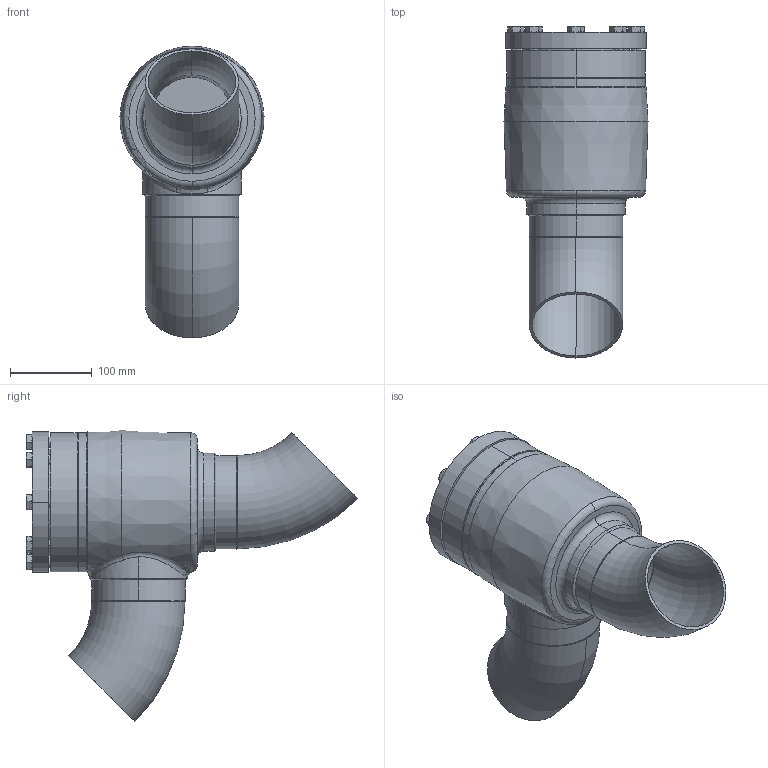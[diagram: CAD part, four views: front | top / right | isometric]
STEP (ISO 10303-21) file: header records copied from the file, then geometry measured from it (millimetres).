
FILE_DESCRIPTION (( 'STEP AP214' ), '1' );
FILE_NAME ('SS52300D19-DN100_R1_PS40.STEP', '2007-01-08T09:47:34', ( 'Herr Grams' ), ( 'AWP GmbH' ), 'SwSTEP 2.0', 'SolidWorks 2002296', '' );
FILE_SCHEMA (( 'AUTOMOTIVE_DESIGN' ));
Length unit declared in the file: millimetre
Products named in the file (12): SS52300D19-DN100_R1_PS40; Gehäuse-kpl16300-DN100_R1_Standard; Gehäuse-kpl16400-DN100_R1_Standard; Gehäuse16400-DN100_Standard; bead-DN100-1_Standard; Kopfstück16300-DN100_Standard; Rohrbogen 45°_Rohrbogen-DN100-45°; bead-DN100-3_Standard; bead-DN100-2_Standard; SS52300E19_Deck+Schr-DN100_Standard; Deckel52300E19-DN100_Standard; Sechskantschraube-DIN933_M12x 35
Assembly tree (19 placements, depth 4):
  SS52300D19-DN100_R1_PS40
    Gehäuse-kpl16300-DN100_R1_Standard
      bead-DN100-3_Standard
      Gehäuse-kpl16400-DN100_R1_Standard
        bead-DN100-1_Standard
        Gehäuse16400-DN100_Standard
        Kopfstück16300-DN100_Standard
      bead-DN100-2_Standard
      Rohrbogen 45°_Rohrbogen-DN100-45°  x2
    SS52300E19_Deck+Schr-DN100_Standard
      Sechskantschraube-DIN933_M12x 35  x8
      Deckel52300E19-DN100_Standard
Bounding box: 176.38 x 406.39 x 357.12 mm (x, y, z)
Volume: 2642754.2 mm3; surface area: 559209.6 mm2
Topology: 16 solids, 16 shells, 309 faces, 662 edges, 397 vertices
Faces by surface type: cone 124, plane 94, cylinder 61, bspline 18, torus 12
Entity records: 16742 total; most frequent: CARTESIAN_POINT 13221, DIRECTION 609, ORIENTED_EDGE 572, EDGE_CURVE 286, AXIS2_PLACEMENT_3D 273, VERTEX_POINT 179, EDGE_LOOP 163, CIRCLE 138
